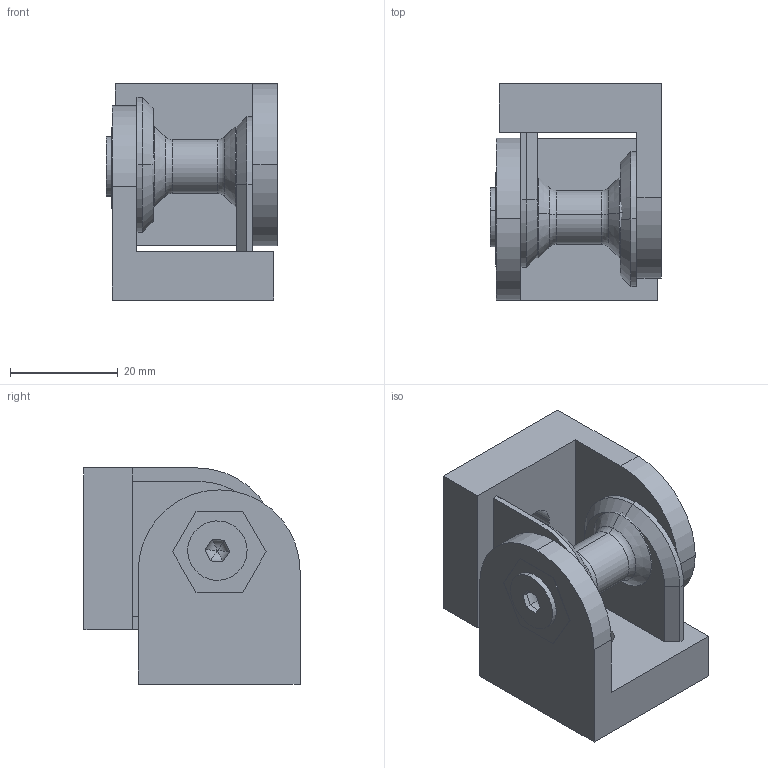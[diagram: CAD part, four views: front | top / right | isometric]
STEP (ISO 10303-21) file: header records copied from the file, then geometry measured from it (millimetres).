
FILE_DESCRIPTION (( 'STEP AP203' ), '1' );
FILE_NAME ('2023.STEP', '2016-04-06T13:45:21', ( '' ), ( '' ), 'SwSTEP 2.0', 'SolidWorks 2014', '' );
FILE_SCHEMA (( 'CONFIG_CONTROL_DESIGN' ));
Length unit declared in the file: millimetre
Products named in the file (4): 2023; 昢膼瘔; 碞鵻罻; 搿錓
Assembly tree (4 placements, depth 2):
  2023
    昢膼瘔  x2
    碞鵻罻
    搿錓
Bounding box: 31.79 x 40.06 x 40.06 mm (x, y, z)
Volume: 22215.6 mm3; surface area: 16150.3 mm2
Topology: 4 solids, 4 shells, 188 faces, 464 edges, 299 vertices
Faces by surface type: plane 136, cylinder 38, cone 10, torus 4
Entity records: 3675 total; most frequent: CARTESIAN_POINT 577, DIRECTION 557, ORIENTED_EDGE 538, EDGE_CURVE 269, VECTOR 209, LINE 209, AXIS2_PLACEMENT_3D 174, VERTEX_POINT 170
